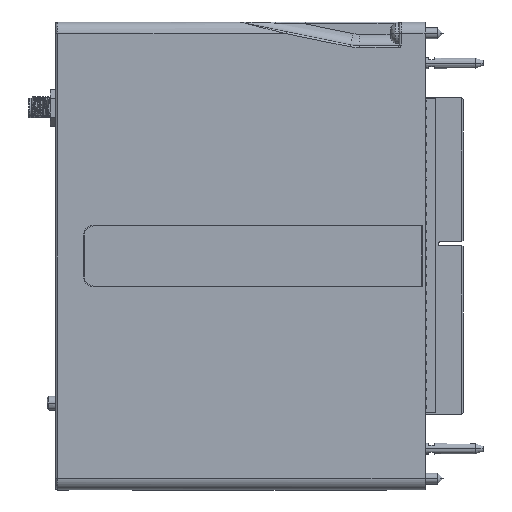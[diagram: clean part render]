
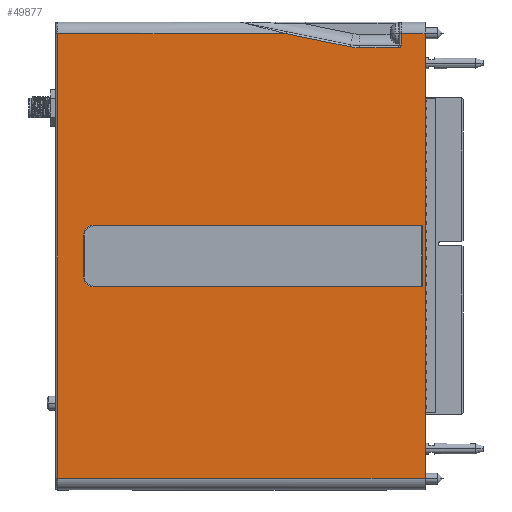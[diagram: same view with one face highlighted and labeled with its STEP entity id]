
A CAD part, front view. The second image highlights one B-rep face of the part: STEP entity #49877.
In plain terms, the highlighted planar face has unit normal (0, -1, 0).
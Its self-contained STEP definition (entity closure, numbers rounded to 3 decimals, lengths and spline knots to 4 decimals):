
#79=DIRECTION('',(0.,0.,1.));
#80=VECTOR('',#79,4.8115);
#81=CARTESIAN_POINT('',(0.589,-0.62,-2.4058));
#82=LINE('',#81,#80);
#4151=DIRECTION('',(-1.,0.,0.));
#4152=VECTOR('',#4151,0.4167);
#4153=CARTESIAN_POINT('',(0.2992,-0.62,
2.2538));
#4154=LINE('',#4153,#4152);
#4155=CARTESIAN_POINT('',(0.2992,-0.62,
2.2538));
#4156=CARTESIAN_POINT('',(0.3033,-0.62,
2.2538));
#4157=CARTESIAN_POINT('',(0.3109,-0.62,
2.2553));
#4158=CARTESIAN_POINT('',(0.321,-0.62,
2.262));
#4159=CARTESIAN_POINT('',(0.3276,-0.62,
2.2721));
#4160=CARTESIAN_POINT('',(0.3292,-0.62,
2.2797));
#4161=CARTESIAN_POINT('',(0.3292,-0.62,
2.2838));
#4163=DIRECTION('',(0.,0.,-1.));
#4164=VECTOR('',#4163,0.122);
#4165=CARTESIAN_POINT('',(0.3292,-0.62,
2.4058));
#4166=LINE('',#4165,#4164);
#4167=DIRECTION('',(1.,0.,0.));
#4168=VECTOR('',#4167,0.2598);
#4169=CARTESIAN_POINT('',(0.3292,-0.62,
2.4058));
#4170=LINE('',#4169,#4168);
#4171=DIRECTION('',(1.,0.,0.));
#4172=VECTOR('',#4171,3.9769);
#4173=CARTESIAN_POINT('',(-3.3879,-0.62,
-2.4058));
#4174=LINE('',#4173,#4172);
#4175=DIRECTION('',(0.,0.,1.));
#4176=VECTOR('',#4175,4.8115);
#4177=CARTESIAN_POINT('',(-3.3879,-0.62,
-2.4058));
#4178=LINE('',#4177,#4176);
#4179=DIRECTION('',(1.,0.,0.));
#4180=VECTOR('',#4179,2.4765);
#4181=CARTESIAN_POINT('',(-3.3879,-0.62,
2.4058));
#4182=LINE('',#4181,#4180);
#4183=DIRECTION('',(-0.98,0.,0.201));
#4184=VECTOR('',#4183,0.7037);
#4185=CARTESIAN_POINT('',(-0.222,-0.62,
2.2644));
#4186=LINE('',#4185,#4184);
#4187=CARTESIAN_POINT('',(-0.1175,-0.62,
2.2538));
#4188=CARTESIAN_POINT('',(-0.1292,-0.62,
2.2538));
#4189=CARTESIAN_POINT('',(-0.1525,-0.62,
2.2546));
#4190=CARTESIAN_POINT('',(-0.1875,-0.62,
2.2581));
#4191=CARTESIAN_POINT('',(-0.2105,-0.62,
2.262));
#4192=CARTESIAN_POINT('',(-0.222,-0.62,
2.2644));
#4194=DIRECTION('',(-1.,0.,0.));
#4195=VECTOR('',#4194,3.5624);
#4196=CARTESIAN_POINT('',(0.564,-0.62,0.335));
#4197=LINE('',#4196,#4195);
#4198=DIRECTION('',(0.,0.,-1.));
#4199=VECTOR('',#4198,0.45);
#4200=CARTESIAN_POINT('',(-3.1084,-0.62,0.225));
#4201=LINE('',#4200,#4199);
#4202=DIRECTION('',(1.,0.,0.));
#4203=VECTOR('',#4202,3.5624);
#4204=CARTESIAN_POINT('',(-2.9984,-0.62,-0.335));
#4205=LINE('',#4204,#4203);
#4206=DIRECTION('',(0.,0.,1.));
#4207=VECTOR('',#4206,0.67);
#4208=CARTESIAN_POINT('',(0.564,-0.62,-0.335));
#4209=LINE('',#4208,#4207);
#29076=CARTESIAN_POINT('',(-2.9984,-0.62,0.225));
#29077=DIRECTION('',(0.,1.,0.));
#29078=DIRECTION('',(-1.,0.,0.));
#29079=AXIS2_PLACEMENT_3D('',#29076,#29077,#29078);
#29133=CARTESIAN_POINT('',(-2.9984,-0.62,-0.225));
#29134=DIRECTION('',(0.,1.,0.));
#29135=DIRECTION('',(0.,0.,-1.));
#29136=AXIS2_PLACEMENT_3D('',#29133,#29134,#29135);
#41788=CARTESIAN_POINT('',(0.2992,-0.62,
2.2538));
#41790=VERTEX_POINT('',#41788);
#41795=CARTESIAN_POINT('',(0.3292,-0.62,2.2838));
#41797=VERTEX_POINT('',#41795);
#41799=CARTESIAN_POINT('',(-0.1175,-0.62,
2.2538));
#41800=VERTEX_POINT('',#41799);
#41803=VERTEX_POINT('',#4192);
#41806=CARTESIAN_POINT('',(-0.9113,-0.62,
2.4058));
#41807=VERTEX_POINT('',#41806);
#41812=CARTESIAN_POINT('',(0.3292,-0.62,
2.4058));
#41813=VERTEX_POINT('',#41812);
#41838=CARTESIAN_POINT('',(0.589,-0.62,-2.4058));
#41840=VERTEX_POINT('',#41838);
#41843=CARTESIAN_POINT('',(0.589,-0.62,2.4058));
#41845=VERTEX_POINT('',#41843);
#41876=CARTESIAN_POINT('',(-3.3879,-0.62,
-2.4058));
#41877=VERTEX_POINT('',#41876);
#41878=CARTESIAN_POINT('',(-3.3879,-0.62,
2.4058));
#41879=VERTEX_POINT('',#41878);
#41984=CARTESIAN_POINT('',(0.564,-0.62,-0.335));
#41985=CARTESIAN_POINT('',(0.564,-0.62,0.335));
#41986=VERTEX_POINT('',#41984);
#41987=VERTEX_POINT('',#41985);
#41992=CARTESIAN_POINT('',(-2.9984,-0.62,-0.335));
#41993=VERTEX_POINT('',#41992);
#41994=CARTESIAN_POINT('',(-3.1084,-0.62,-0.225));
#41995=VERTEX_POINT('',#41994);
#42000=CARTESIAN_POINT('',(-3.1084,-0.62,0.225));
#42001=VERTEX_POINT('',#42000);
#42002=CARTESIAN_POINT('',(-2.9984,-0.62,0.335));
#42003=VERTEX_POINT('',#42002);
#49841=CARTESIAN_POINT('',(0.589,-0.62,-2.533));
#49842=DIRECTION('',(0.,-1.,0.));
#49843=DIRECTION('',(0.,0.,1.));
#49844=AXIS2_PLACEMENT_3D('',#49841,#49842,#49843);
#49845=PLANE('',#49844);
#49846=ORIENTED_EDGE('',*,*,#49832,.F.);
#49847=ORIENTED_EDGE('',*,*,#49821,.T.);
#49848=ORIENTED_EDGE('',*,*,#49730,.F.);
#49849=ORIENTED_EDGE('',*,*,#49668,.T.);
#49850=ORIENTED_EDGE('',*,*,#44034,.F.);
#49852=ORIENTED_EDGE('',*,*,#49851,.F.);
#49854=ORIENTED_EDGE('',*,*,#49853,.T.);
#49856=ORIENTED_EDGE('',*,*,#49855,.T.);
#49858=ORIENTED_EDGE('',*,*,#49857,.F.);
#49860=ORIENTED_EDGE('',*,*,#49859,.F.);
#49861=EDGE_LOOP('',(#49846,#49847,#49848,#49849,#49850,#49852,#49854,#49856,
#49858,#49860));
#49862=FACE_OUTER_BOUND('',#49861,.F.);
#49864=ORIENTED_EDGE('',*,*,#49863,.T.);
#49866=ORIENTED_EDGE('',*,*,#49865,.F.);
#49868=ORIENTED_EDGE('',*,*,#49867,.T.);
#49870=ORIENTED_EDGE('',*,*,#49869,.F.);
#49872=ORIENTED_EDGE('',*,*,#49871,.T.);
#49874=ORIENTED_EDGE('',*,*,#49873,.T.);
#49875=EDGE_LOOP('',(#49864,#49866,#49868,#49870,#49872,#49874));
#49876=FACE_BOUND('',#49875,.F.);
#49877=ADVANCED_FACE('',(#49862,#49876),#49845,.T.);
#4162=B_SPLINE_CURVE_WITH_KNOTS('',3,(#4155,#4156,#4157,#4158,#4159,#4160,
#4161),.UNSPECIFIED.,.F.,.F.,(4,1,1,1,4),(0.,0.25,0.5,0.75,1.),
.UNSPECIFIED.);
#4193=B_SPLINE_CURVE_WITH_KNOTS('',3,(#4187,#4188,#4189,#4190,#4191,#4192),
.UNSPECIFIED.,.F.,.F.,(4,1,1,4),(0.,0.3333,0.6667,1.),
.UNSPECIFIED.);
#29080=CIRCLE('',#29079,0.11);
#29137=CIRCLE('',#29136,0.11);
#44034=EDGE_CURVE('',#41840,#41845,#82,.T.);
#49668=EDGE_CURVE('',#41813,#41845,#4170,.T.);
#49730=EDGE_CURVE('',#41813,#41797,#4166,.T.);
#49821=EDGE_CURVE('',#41790,#41797,#4162,.T.);
#49832=EDGE_CURVE('',#41790,#41800,#4154,.T.);
#49851=EDGE_CURVE('',#41877,#41840,#4174,.T.);
#49853=EDGE_CURVE('',#41877,#41879,#4178,.T.);
#49855=EDGE_CURVE('',#41879,#41807,#4182,.T.);
#49857=EDGE_CURVE('',#41803,#41807,#4186,.T.);
#49859=EDGE_CURVE('',#41800,#41803,#4193,.T.);
#49863=EDGE_CURVE('',#41987,#42003,#4197,.T.);
#49865=EDGE_CURVE('',#42001,#42003,#29080,.T.);
#49867=EDGE_CURVE('',#42001,#41995,#4201,.T.);
#49869=EDGE_CURVE('',#41993,#41995,#29137,.T.);
#49871=EDGE_CURVE('',#41993,#41986,#4205,.T.);
#49873=EDGE_CURVE('',#41986,#41987,#4209,.T.);
